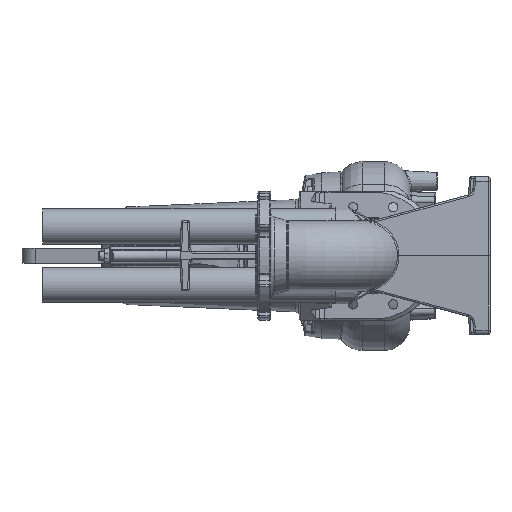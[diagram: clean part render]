
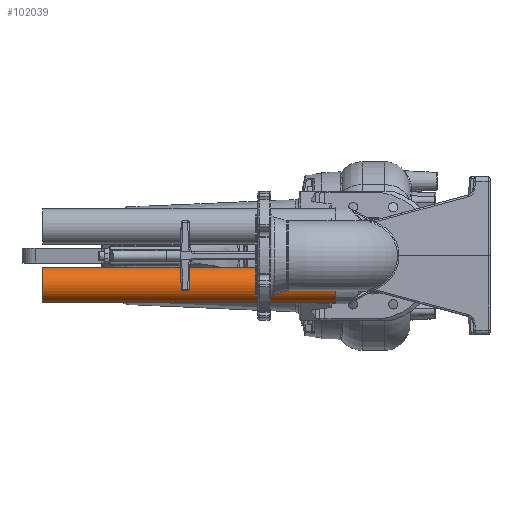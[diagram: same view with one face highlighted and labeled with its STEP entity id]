
A CAD part, front view. The second image highlights one B-rep face of the part: STEP entity #102039.
In plain terms, the highlighted cylindrical face has radius 30.15 mm (diameter 60.3 mm), a full revolution.
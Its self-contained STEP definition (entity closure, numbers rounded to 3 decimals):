
#4485 = EDGE_CURVE ( 'NONE', #70945, #70945, #86820, .T. ) ;
#6440 = ORIENTED_EDGE ( 'NONE', *, *, #4485, .F. ) ;
#8383 = EDGE_LOOP ( 'NONE', ( #53975 ) ) ;
#9273 = CIRCLE ( 'NONE', #38205, 30.15 ) ;
#10088 = DIRECTION ( 'NONE',  ( -1., 0., 0. ) ) ;
#11917 = DIRECTION ( 'NONE',  ( -1., 0., 0. ) ) ;
#15516 = AXIS2_PLACEMENT_3D ( 'NONE', #52922, #10088, #61596 ) ;
#23163 = EDGE_CURVE ( 'NONE', #29097, #29097, #9273, .T. ) ;
#25682 = AXIS2_PLACEMENT_3D ( 'NONE', #75631, #66174, #32261 ) ;
#27675 = FACE_OUTER_BOUND ( 'NONE', #8383, .T. ) ;
#28852 = CARTESIAN_POINT ( 'NONE',  ( -65., 240., -50. ) ) ;
#29097 = VERTEX_POINT ( 'NONE', #49266 ) ;
#32261 = DIRECTION ( 'NONE',  ( 0., 0., -1. ) ) ;
#38205 = AXIS2_PLACEMENT_3D ( 'NONE', #28852, #11917, #72174 ) ;
#49266 = CARTESIAN_POINT ( 'NONE',  ( -65., 240., -19.85 ) ) ;
#52922 = CARTESIAN_POINT ( 'NONE',  ( -565., 240., -50. ) ) ;
#53975 = ORIENTED_EDGE ( 'NONE', *, *, #23163, .T. ) ;
#61596 = DIRECTION ( 'NONE',  ( 0., 0., 1. ) ) ;
#66174 = DIRECTION ( 'NONE',  ( 1., 0., 0. ) ) ;
#70392 = EDGE_LOOP ( 'NONE', ( #6440 ) ) ;
#70945 = VERTEX_POINT ( 'NONE', #93439 ) ;
#72174 = DIRECTION ( 'NONE',  ( 0., 0., 1. ) ) ;
#75631 = CARTESIAN_POINT ( 'NONE',  ( -565., 240., -50. ) ) ;
#76275 = FACE_OUTER_BOUND ( 'NONE', #70392, .T. ) ;
#86820 = CIRCLE ( 'NONE', #15516, 30.15 ) ;
#93439 = CARTESIAN_POINT ( 'NONE',  ( -565., 240., -19.85 ) ) ;
#95176 = CYLINDRICAL_SURFACE ( 'NONE', #25682, 30.15 ) ;
#102039 = ADVANCED_FACE ( 'NONE', ( #76275, #27675 ), #95176, .T. ) ;
